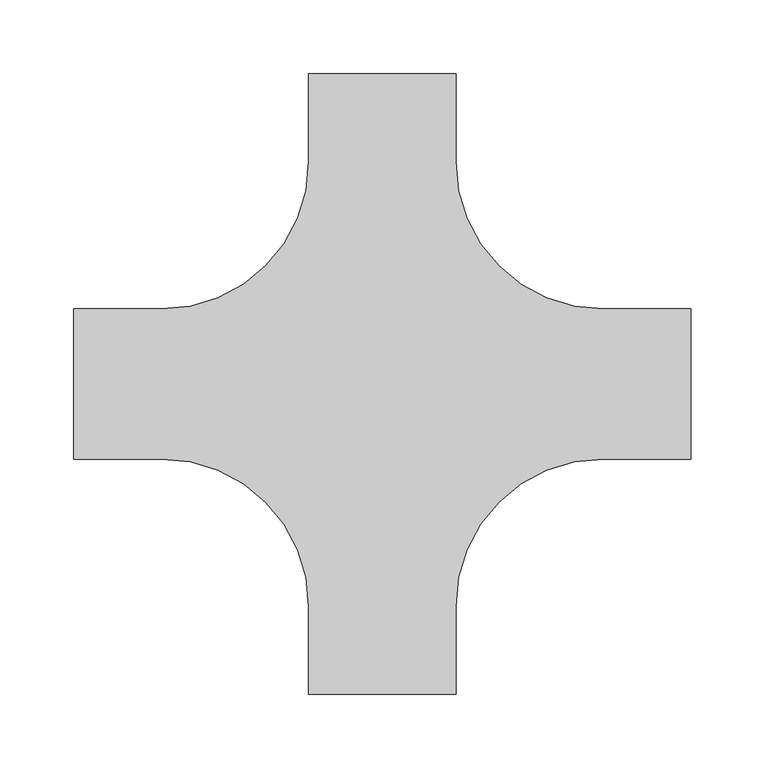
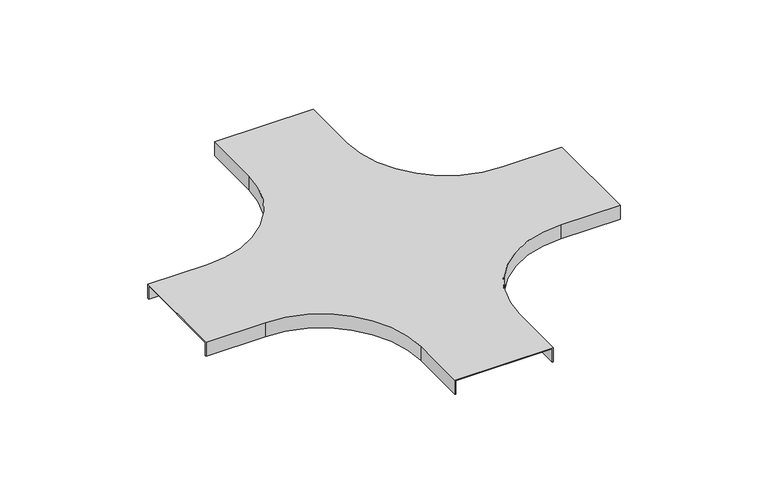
"""IFC4 building model written with IfcOpenShell, lengths in millimetres: proxy geometry, Cable_Tray_Cover_TCRERC_Basortray : Basortray TCRERC 100-GS."""

from ifc_helpers import new_model, si_unit, frame, origin, place, context, project, spatial, polyline, circle_curve, source, transform, mapped, element, save
from ifc_brep_helpers import plane_surface, cylinder_surface, revolved_surface, advanced_brep


def generic_models_22f00882(model_context):
    return source(origin(), model_context, "Body", "AdvancedBrep", [
        advanced_brep(
        [(210.0, 0.0, 1.0), (210.0, 102.0, 1.0), (150.0, 102.0, 1.0), (50.0, 202.0, 1.0), (50.0, 262.0, 1.0), (-50.0, 262.0, 1.0), (-50.0, 202.0, 1.0), (-150.0, 102.0, 1.0), (-210.0, 102.0, 1.0), (-210.0, 0.0, 1.0), (-150.0, 0.0, 1.0), (-50.0, -100.0, 1.0), (-50.0, -160.0, 1.0), (50.0, -160.0, 1.0), (50.0, -100.0, 1.0), (150.0, 0.0, 1.0), (210.0, 0.0, -14.0), (150.0, 0.0, -14.0), (50.0, -100.0, -14.0), (50.0, -160.0, -14.0), (49.0, -160.0, -14.0), (49.0, -100.0, -14.0), (150.0, 1.0, -14.0), (210.0, 1.0, -14.0), (-50.0, -160.0, -14.0), (-50.0, -100.0, -14.0), (-150.0, 0.0, -14.0), (-210.0, 0.0, -14.0), (-210.0, 1.0, -14.0), (-150.0, 1.0, -14.0), (-49.0, -100.0, -14.0), (-49.0, -160.0, -14.0), (-210.0, 102.0, -14.0), (-150.0, 102.0, -14.0), (-50.0, 202.0, -14.0), (-50.0, 262.0, -14.0), (-49.0, 262.0, -14.0), (-49.0, 202.0, -14.0), (-150.0, 101.0, -14.0), (-210.0, 101.0, -14.0), (50.0, 262.0, -14.0), (50.0, 202.0, -14.0), (150.0, 102.0, -14.0), (210.0, 102.0, -14.0), (210.0, 101.0, -14.0), (150.0, 101.0, -14.0), (49.0, 202.0, -14.0), (49.0, 262.0, -14.0), (-210.0, 101.0, 0.0), (-210.0, 1.0, 0.0), (-49.0, -160.0, 0.0), (49.0, -160.0, 0.0), (210.0, 1.0, 0.0), (210.0, 101.0, 0.0), (-150.0, 101.0, 0.0), (-49.0, 202.0, 0.0), (-49.0, 262.0, 0.0), (49.0, 262.0, 0.0), (49.0, 202.0, 0.0), (150.0, 101.0, 0.0), (150.0, 1.0, 0.0), (49.0, -100.0, 0.0), (-49.0, -100.0, 0.0), (-150.0, 1.0, 0.0)],
        [
            (0, 1),
            (1, 2),
            (2, 3, circle_curve(frame((150.0, 202.0, 1.0), z_axis=(0.0, 0.0, -1.0), x_axis=(1.0, 0.0, 0.0)), 100.0)),
            (3, 4),
            (4, 5),
            (5, 6),
            (6, 7, circle_curve(frame((-150.0, 202.0, 1.0), z_axis=(0.0, 0.0, -1.0), x_axis=(1.0, 0.0, 0.0)), 100.0)),
            (7, 8),
            (8, 9),
            (9, 10),
            (10, 11, circle_curve(frame((-150.0, -100.0, 1.0), z_axis=(0.0, 0.0, -1.0), x_axis=(1.0, 0.0, 0.0)), 100.0)),
            (11, 12),
            (12, 13),
            (13, 14),
            (14, 15, circle_curve(frame((150.0, -100.0, 1.0), z_axis=(0.0, 0.0, -1.0), x_axis=(1.0, 0.0, 0.0)), 100.0)),
            (15, 0),
            (16, 17),
            (17, 18, circle_curve(frame((150.0, -100.0, -14.0), z_axis=(0.0, 0.0, 1.0), x_axis=(1.0, 0.0, 0.0)), 100.0)),
            (18, 19),
            (19, 20),
            (20, 21),
            (21, 22, circle_curve(frame((150.0, -100.0, -14.0), z_axis=(0.0, 0.0, -1.0), x_axis=(1.0, 0.0, 0.0)), 101.0)),
            (22, 23),
            (23, 16),
            (24, 25),
            (25, 26, circle_curve(frame((-150.0, -100.0, -14.0), z_axis=(0.0, 0.0, 1.0), x_axis=(1.0, 0.0, 0.0)), 100.0)),
            (26, 27),
            (27, 28),
            (28, 29),
            (29, 30, circle_curve(frame((-150.0, -100.0, -14.0), z_axis=(0.0, 0.0, -1.0), x_axis=(1.0, 0.0, 0.0)), 101.0)),
            (30, 31),
            (31, 24),
            (32, 33),
            (33, 34, circle_curve(frame((-150.0, 202.0, -14.0), z_axis=(0.0, 0.0, 1.0), x_axis=(1.0, 0.0, 0.0)), 100.0)),
            (34, 35),
            (35, 36),
            (36, 37),
            (37, 38, circle_curve(frame((-150.0, 202.0, -14.0), z_axis=(0.0, 0.0, -1.0), x_axis=(1.0, 0.0, 0.0)), 101.0)),
            (38, 39),
            (39, 32),
            (40, 41),
            (41, 42, circle_curve(frame((150.0, 202.0, -14.0), z_axis=(0.0, 0.0, 1.0), x_axis=(1.0, 0.0, 0.0)), 100.0)),
            (42, 43),
            (43, 44),
            (44, 45),
            (45, 46, circle_curve(frame((150.0, 202.0, -14.0), z_axis=(0.0, 0.0, -1.0), x_axis=(1.0, 0.0, 0.0)), 101.0)),
            (46, 47),
            (47, 40),
            (8, 32),
            (39, 48),
            (48, 49),
            (49, 28),
            (27, 9),
            (26, 10),
            (25, 11),
            (24, 12),
            (31, 50),
            (50, 51),
            (51, 20),
            (19, 13),
            (18, 14),
            (17, 15),
            (16, 0),
            (23, 52),
            (52, 53),
            (53, 44),
            (43, 1),
            (48, 54),
            (54, 55, circle_curve(frame((-150.0, 202.0, 0.0), z_axis=(0.0, 0.0, 1.0), x_axis=(1.0, 0.0, 0.0)), 101.0)),
            (55, 56),
            (56, 57),
            (57, 58),
            (58, 59, circle_curve(frame((150.0, 202.0, 0.0), z_axis=(0.0, 0.0, 1.0), x_axis=(1.0, 0.0, 0.0)), 101.0)),
            (59, 53),
            (52, 60),
            (60, 61, circle_curve(frame((150.0, -100.0, 0.0), z_axis=(0.0, 0.0, 1.0), x_axis=(1.0, 0.0, 0.0)), 101.0)),
            (61, 51),
            (50, 62),
            (62, 63, circle_curve(frame((-150.0, -100.0, 0.0), z_axis=(0.0, 0.0, 1.0), x_axis=(1.0, 0.0, 0.0)), 101.0)),
            (63, 49),
            (63, 29),
            (62, 30),
            (61, 21),
            (60, 22),
            (42, 2),
            (41, 3),
            (40, 4),
            (47, 57),
            (56, 36),
            (35, 5),
            (34, 6),
            (33, 7),
            (59, 45),
            (58, 46),
            (55, 37),
            (54, 38),
        ],
        [
            plane_surface(frame((210.0, 102.0, 1.0), z_axis=(0.0, 0.0, 1.0), x_axis=(0.0, 1.0, 0.0))),
            plane_surface(frame((210.0, 102.0, -14.0), z_axis=(0.0, 0.0, -1.0), x_axis=(0.0, -1.0, 0.0))),
            plane_surface(frame((-210.0, 102.0, 1.0), z_axis=(-1.0, 0.0, 0.0), x_axis=(0.0, 0.0, -1.0))),
            plane_surface(frame((-210.0, 0.0, 1.0), z_axis=(0.0, -1.0, 0.0), x_axis=(0.0, 0.0, -1.0))),
            revolved_surface(polyline([(-50.0, -100.0, -14.0), (-50.0, -100.0, 1.0)]), (-150.0, -100.0, -14.0), (0.0, 0.0, -1.0)),
            plane_surface(frame((-50.0, -100.0, 1.0), z_axis=(-1.0, 0.0, 0.0), x_axis=(0.0, 0.0, -1.0))),
            plane_surface(frame((-50.0, -160.0, 1.0), z_axis=(0.0, -1.0, 0.0), x_axis=(0.0, 0.0, -1.0))),
            plane_surface(frame((50.0, -160.0, 1.0), z_axis=(1.0, 0.0, 0.0), x_axis=(0.0, 0.0, -1.0))),
            revolved_surface(polyline([(250.0, -100.0, -14.0), (250.0, -100.0, 1.0)]), (150.0, -100.0, -14.0), (0.0, 0.0, -1.0)),
            plane_surface(frame((150.0, 0.0, 1.0), z_axis=(0.0, -1.0, 0.0), x_axis=(0.0, 0.0, -1.0))),
            plane_surface(frame((210.0, 0.0, 1.0), z_axis=(1.0, 0.0, 0.0), x_axis=(0.0, 0.0, -1.0))),
            plane_surface(frame((-210.0, 1.0, 0.0), z_axis=(0.0, 0.0, -1.0), x_axis=(1.0, 0.0, 0.0))),
            plane_surface(frame((-210.0, 1.0, 0.0), z_axis=(0.0, 1.0, 0.0), x_axis=(0.0, 0.0, -1.0))),
            cylinder_surface(frame((-150.0, -100.0, -14.0), z_axis=(0.0, 0.0, -1.0), x_axis=(1.0, 0.0, 0.0)), 101.0),
            plane_surface(frame((-49.0, -100.0, 0.0), z_axis=(1.0, 0.0, 0.0), x_axis=(0.0, 0.0, -1.0))),
            plane_surface(frame((49.0, -160.0, 0.0), z_axis=(-1.0, 0.0, 0.0), x_axis=(0.0, 0.0, -1.0))),
            cylinder_surface(frame((150.0, -100.0, -14.0), z_axis=(0.0, 0.0, -1.0), x_axis=(1.0, 0.0, 0.0)), 101.0),
            plane_surface(frame((150.0, 1.0, 0.0), z_axis=(0.0, 1.0, 0.0), x_axis=(0.0, 0.0, -1.0))),
            plane_surface(frame((210.0, 102.0, 1.0), z_axis=(0.0, 1.0, 0.0), x_axis=(0.0, 0.0, -1.0))),
            revolved_surface(polyline([(250.0, 202.0, -14.0), (250.0, 202.0, 1.0)]), (150.0, 202.0, -14.0), (0.0, 0.0, -1.0)),
            plane_surface(frame((50.0, 202.0, 1.0), z_axis=(1.0, 0.0, 0.0), x_axis=(0.0, 0.0, -1.0))),
            plane_surface(frame((50.0, 262.0, 1.0), z_axis=(0.0, 1.0, 0.0), x_axis=(0.0, 0.0, -1.0))),
            plane_surface(frame((-50.0, 262.0, 1.0), z_axis=(-1.0, 0.0, 0.0), x_axis=(0.0, 0.0, -1.0))),
            revolved_surface(polyline([(-50.0, 202.0, -14.0), (-50.0, 202.0, 1.0)]), (-150.0, 202.0, -14.0), (0.0, 0.0, -1.0)),
            plane_surface(frame((-150.0, 102.0, 1.0), z_axis=(0.0, 1.0, 0.0), x_axis=(0.0, 0.0, -1.0))),
            plane_surface(frame((210.0, 101.0, 0.0), z_axis=(0.0, -1.0, 0.0), x_axis=(0.0, 0.0, -1.0))),
            cylinder_surface(frame((150.0, 202.0, -14.0), z_axis=(0.0, 0.0, -1.0), x_axis=(1.0, 0.0, 0.0)), 101.0),
            plane_surface(frame((49.0, 202.0, 0.0), z_axis=(-1.0, 0.0, 0.0), x_axis=(0.0, 0.0, -1.0))),
            plane_surface(frame((-49.0, 262.0, 0.0), z_axis=(1.0, 0.0, 0.0), x_axis=(0.0, 0.0, -1.0))),
            cylinder_surface(frame((-150.0, 202.0, -14.0), z_axis=(0.0, 0.0, -1.0), x_axis=(1.0, 0.0, 0.0)), 101.0),
            plane_surface(frame((-150.0, 101.0, 0.0), z_axis=(0.0, -1.0, 0.0), x_axis=(0.0, 0.0, -1.0))),
        ],
        [
            (0, [[1, 2, 3, 4, 5, 6, 7, 8, 9, 10, 11, 12, 13, 14, 15, 16]]),
            (1, [[17, 18, 19, 20, 21, 22, 23, 24]]),
            (1, [[25, 26, 27, 28, 29, 30, 31, 32]]),
            (1, [[33, 34, 35, 36, 37, 38, 39, 40]]),
            (1, [[41, 42, 43, 44, 45, 46, 47, 48]]),
            (2, [[-9, 49, -40, 50, 51, 52, -28, 53]]),
            (3, [[-10, -53, -27, 54]]),
            (4, [[-11, -54, -26, 55]]),
            (5, [[-12, -55, -25, 56]]),
            (6, [[-13, -56, -32, 57, 58, 59, -20, 60]]),
            (7, [[-14, -60, -19, 61]]),
            (8, [[-15, -61, -18, 62]]),
            (9, [[-16, -62, -17, 63]]),
            (10, [[-1, -63, -24, 64, 65, 66, -44, 67]]),
            (11, [[68, 69, 70, 71, 72, 73, 74, -65, 75, 76, 77, -58, 78, 79, 80, -51]]),
            (12, [[-80, 81, -29, -52]]),
            (13, [[-79, 82, -30, -81]]),
            (14, [[-78, -57, -31, -82]]),
            (15, [[-77, 83, -21, -59]]),
            (16, [[-76, 84, -22, -83]]),
            (17, [[-75, -64, -23, -84]]),
            (18, [[-2, -67, -43, 85]]),
            (19, [[-3, -85, -42, 86]]),
            (20, [[-4, -86, -41, 87]]),
            (21, [[-5, -87, -48, 88, -71, 89, -36, 90]]),
            (22, [[-6, -90, -35, 91]]),
            (23, [[-7, -91, -34, 92]]),
            (24, [[-8, -92, -33, -49]]),
            (25, [[-74, 93, -45, -66]]),
            (26, [[-73, 94, -46, -93]]),
            (27, [[-72, -88, -47, -94]]),
            (28, [[-70, 95, -37, -89]]),
            (29, [[-69, 96, -38, -95]]),
            (30, [[-68, -50, -39, -96]]),
        ],
    ),
    ])


if __name__ == "__main__":
    model = new_model("IFC4")
    model_context = context("Model", 3, world=origin())
    ifc_project = project(units=[si_unit("LENGTHUNIT", "METRE", prefix="MILLI")], contexts=[model_context])
    site = spatial("IfcSite", under=ifc_project)
    building = spatial("IfcBuilding", under=site)
    placement = place(None, origin())
    generic_models_shape = generic_models_22f00882(model_context)
    element("IfcBuildingElementProxy", 1, Name="Cable_Tray_Cover_TCRERC_Basortray : Basortray TCRERC 100-GS", ObjectType="Cable_Tray_Cover_TCRERC_Basortray : Basortray TCRERC 100-GS", at=placement, inside=building, context=model_context, shape_type="MappedRepresentation", body=[
        mapped(generic_models_shape, transform((0.0, 0.0, 0.0), x_axis=(1.0, 0.0, 0.0), y_axis=(0.0, 1.0, 0.0), z_axis=(0.0, 0.0, 1.0))),
    ])
    save(model, "model.ifc")
